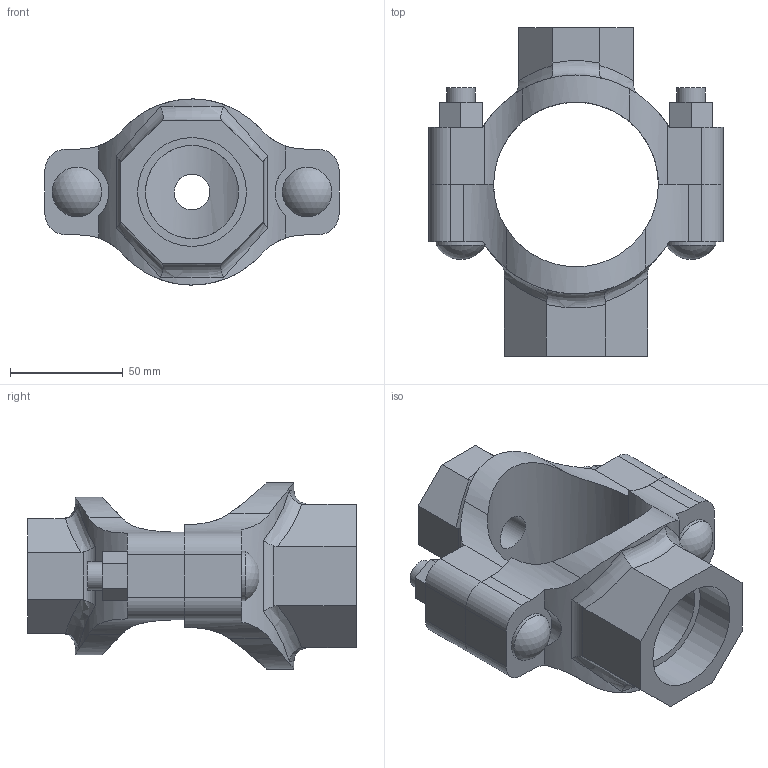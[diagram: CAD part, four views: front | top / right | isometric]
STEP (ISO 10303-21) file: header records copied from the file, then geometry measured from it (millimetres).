
FILE_DESCRIPTION(/* description */ ('VIC MECH-T BRANCH OUTLET CROSS STYLE 920N (THD)','CAx-IF Rec.Pracs.---Representation and Presentation of Product Manufacturing Information (PMI)---4.0---2014-10-13'),/* implementation_level */ '2;1');
FILE_NAME(/* name */ 'C:\Users\Vjadhav\AppData\Roaming\Autodesk\ApplicationPlugins\Back Up\Victaulic_IPS_Mechanical-Cross Outlet_Style 920N (FPT)\Victaulic_IPS_Mechanical-Cross Outlet_02.5x0.5x01.5 (65x15x40).stp',/* time_stamp */ '2020-08-06T18:56:28+05:00',/* author */ ('Vjadhav'),/* organization */ ('Victaulic'),/* preprocessor_version */ 'ST-DEVELOPER v17.2',/* originating_system */ 'Autodesk Inventor 2019',/* authorisation */ '');
FILE_SCHEMA (('AP242_MANAGED_MODEL_BASED_3D_ENGINEERING_MIM_LF { 1 0 10303 442 1 1 4 }'));
Length unit declared in the file: inch
Products named in the file (3): 920NT-02.5x0.5x01.5; 920NT-02.5x0.5; 920NT-02.5x01.5
Assembly tree (2 placements, depth 2):
  920NT-02.5x0.5x01.5
    920NT-02.5x0.5
    920NT-02.5x01.5
Bounding box: 130.56 x 145.8 x 82.55 mm (x, y, z)
Volume: 324221.1 mm3; surface area: 74236.6 mm2
Topology: 2 solids, 2 shells, 132 faces, 350 edges, 236 vertices
Faces by surface type: plane 68, cylinder 50, bspline 8, torus 4, sphere 2
Full cylindrical faces by diameter (mm): 12.7 x4, 15.799 x1, 21.336 x1, 21.982 x2, 41.275 x1, 48.26 x1
Entity records: 5094 total; most frequent: CARTESIAN_POINT 1581, ORIENTED_EDGE 700, DIRECTION 648, EDGE_CURVE 350, VERTEX_POINT 236, AXIS2_PLACEMENT_3D 231, LINE 186, VECTOR 186
